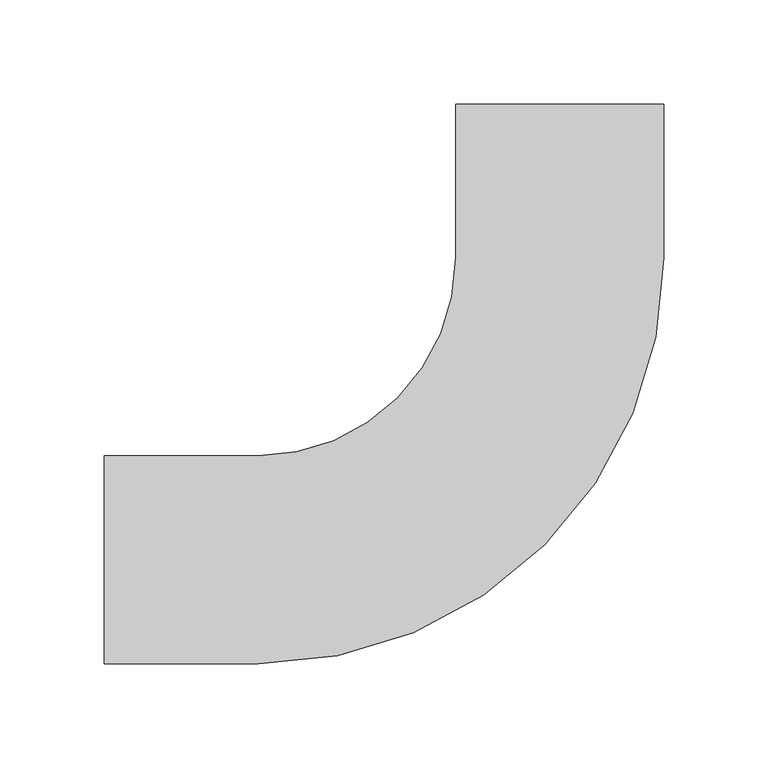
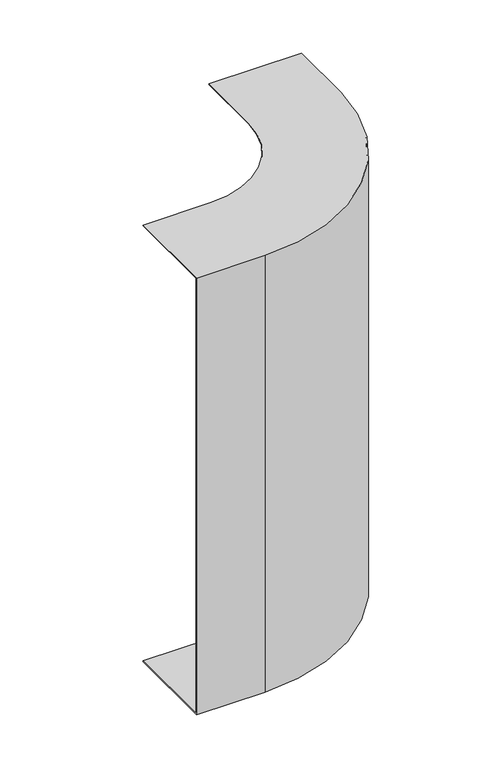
"""IFC4 building model written with IfcOpenShell, lengths in millimetres: cable carrier fitting geometry, BAKS_KK_Vertical bend EXTERNAL_LU : LUNJ_H100."""

from ifc_helpers import new_model, si_unit, frame, origin, place, context, project, spatial, polyline, circle_curve, source, transform, mapped, element, save
from ifc_brep_helpers import plane_surface, cylinder_surface, revolved_surface, advanced_brep


def cable_carrier_fitting_2a96a9fd(model_context):
    return source(origin(), model_context, "Body", "AdvancedBrep", [
        advanced_brep(
        [(-219.0, 50.0, 250.0), (-219.0, 50.0, 249.0), (-219.0, -49.0, 249.0), (-219.0, -49.0, -249.0), (-219.0, 50.0, -249.0), (-219.0, 50.0, -250.0), (-219.0, -50.0, -250.0), (-219.0, -50.0, 250.0), (-50.0, 219.0, 250.0), (50.0, 219.0, 250.0), (50.0, 219.0, -250.0), (-50.0, 219.0, -250.0), (-50.0, 219.0, -249.0), (49.0, 219.0, -249.0), (49.0, 219.0, 249.0), (-50.0, 219.0, 249.0), (-145.0, -50.0, 250.0), (50.0, 145.0, 250.0), (-50.0, 145.0, 250.0), (-145.0, 50.0, 250.0), (-145.0, -50.0, -250.0), (-145.0, 50.0, -250.0), (-50.0, 145.0, -250.0), (50.0, 145.0, -250.0), (-145.0, 50.0, -249.0), (-145.0, -49.0, -249.0), (49.0, 145.0, -249.0), (-50.0, 145.0, -249.0), (-145.0, -49.0, 249.0), (-145.0, 50.0, 249.0), (-50.0, 145.0, 249.0), (49.0, 145.0, 249.0)],
        [
            (0, 1),
            (1, 2),
            (2, 3),
            (3, 4),
            (4, 5),
            (5, 6),
            (6, 7),
            (7, 0),
            (8, 9),
            (9, 10),
            (10, 11),
            (11, 12),
            (12, 13),
            (13, 14),
            (14, 15),
            (15, 8),
            (7, 16),
            (16, 17, circle_curve(frame((-145.0, 145.0, 250.0), z_axis=(0.0, 0.0, 1.0), x_axis=(0.0, -1.0, 0.0)), 195.0)),
            (17, 9),
            (8, 18),
            (18, 19, circle_curve(frame((-145.0, 145.0, 250.0), z_axis=(0.0, 0.0, -1.0), x_axis=(0.0, -1.0, 0.0)), 95.0)),
            (19, 0),
            (6, 20),
            (20, 16),
            (5, 21),
            (21, 22, circle_curve(frame((-145.0, 145.0, -250.0), z_axis=(0.0, 0.0, 1.0), x_axis=(0.0, -1.0, 0.0)), 95.0)),
            (22, 11),
            (10, 23),
            (23, 20, circle_curve(frame((-145.0, 145.0, -250.0), z_axis=(0.0, 0.0, -1.0), x_axis=(0.0, -1.0, 0.0)), 195.0)),
            (4, 24),
            (24, 21),
            (3, 25),
            (25, 26, circle_curve(frame((-145.0, 145.0, -249.0), z_axis=(0.0, 0.0, 1.0), x_axis=(0.0, -1.0, 0.0)), 194.0)),
            (26, 13),
            (12, 27),
            (27, 24, circle_curve(frame((-145.0, 145.0, -249.0), z_axis=(0.0, 0.0, -1.0), x_axis=(0.0, -1.0, 0.0)), 95.0)),
            (2, 28),
            (28, 25),
            (1, 29),
            (29, 30, circle_curve(frame((-145.0, 145.0, 249.0), z_axis=(0.0, 0.0, 1.0), x_axis=(0.0, -1.0, 0.0)), 95.0)),
            (30, 15),
            (14, 31),
            (31, 28, circle_curve(frame((-145.0, 145.0, 249.0), z_axis=(0.0, 0.0, -1.0), x_axis=(0.0, -1.0, 0.0)), 194.0)),
            (19, 29),
            (23, 17),
            (27, 22),
            (31, 26),
            (18, 30),
        ],
        [
            plane_surface(frame((-219.0, 0.0, 0.0), z_axis=(-1.0, 0.0, 0.0), x_axis=(0.0, 0.0, 1.0))),
            plane_surface(frame((0.0, 219.0, 0.0), z_axis=(0.0, 1.0, 0.0), x_axis=(0.0, 0.0, 1.0))),
            plane_surface(frame((-219.0, -50.0, 250.0), z_axis=(0.0, 0.0, 1.0), x_axis=(1.0, 0.0, 0.0))),
            plane_surface(frame((-219.0, -50.0, -250.0), z_axis=(0.0, -1.0, 0.0), x_axis=(1.0, 0.0, 0.0))),
            plane_surface(frame((-219.0, 50.0, -250.0), z_axis=(0.0, 0.0, -1.0), x_axis=(1.0, 0.0, 0.0))),
            plane_surface(frame((-219.0, 50.0, -249.0), z_axis=(0.0, 1.0, 0.0), x_axis=(1.0, 0.0, 0.0))),
            plane_surface(frame((-219.0, -49.0, -249.0), z_axis=(0.0, 0.0, 1.0), x_axis=(1.0, 0.0, 0.0))),
            plane_surface(frame((-219.0, -49.0, 249.0), z_axis=(0.0, 1.0, 0.0), x_axis=(1.0, 0.0, 0.0))),
            plane_surface(frame((-219.0, 50.0, 249.0), z_axis=(0.0, 0.0, -1.0), x_axis=(1.0, 0.0, 0.0))),
            plane_surface(frame((-219.0, 50.0, 250.0), z_axis=(0.0, 1.0, 0.0), x_axis=(1.0, 0.0, 0.0))),
            cylinder_surface(frame((-145.0, 145.0, 0.0), z_axis=(0.0, 0.0, 1.0), x_axis=(0.0, -1.0, 0.0)), 195.0),
            revolved_surface(polyline([(-145.0, 50.0, -249.0), (-145.0, 50.0, -250.0)]), (-145.0, 145.0, 0.0), (0.0, 0.0, 1.0)),
            revolved_surface(polyline([(-145.0, -49.0, 249.0), (-145.0, -49.0, -249.0)]), (-145.0, 145.0, 0.0), (0.0, 0.0, 1.0)),
            revolved_surface(polyline([(-145.0, 50.0, 250.0), (-145.0, 50.0, 249.0)]), (-145.0, 145.0, 0.0), (0.0, 0.0, 1.0)),
            plane_surface(frame((50.0, 145.0, -250.0), z_axis=(1.0, 0.0, 0.0), x_axis=(0.0, 1.0, 0.0))),
            plane_surface(frame((-50.0, 145.0, -249.0), z_axis=(-1.0, 0.0, 0.0), x_axis=(0.0, 1.0, 0.0))),
            plane_surface(frame((49.0, 145.0, 249.0), z_axis=(-1.0, 0.0, 0.0), x_axis=(0.0, 1.0, 0.0))),
            plane_surface(frame((-50.0, 145.0, 250.0), z_axis=(-1.0, 0.0, 0.0), x_axis=(0.0, 1.0, 0.0))),
        ],
        [
            (0, [[1, 2, 3, 4, 5, 6, 7, 8]]),
            (1, [[9, 10, 11, 12, 13, 14, 15, 16]]),
            (2, [[-8, 17, 18, 19, -9, 20, 21, 22]]),
            (3, [[-7, 23, 24, -17]]),
            (4, [[-6, 25, 26, 27, -11, 28, 29, -23]]),
            (5, [[-5, 30, 31, -25]]),
            (6, [[-4, 32, 33, 34, -13, 35, 36, -30]]),
            (7, [[-3, 37, 38, -32]]),
            (8, [[-2, 39, 40, 41, -15, 42, 43, -37]]),
            (9, [[-1, -22, 44, -39]]),
            (10, [[-18, -24, -29, 45]]),
            (11, [[-26, -31, -36, 46]]),
            (12, [[-33, -38, -43, 47]]),
            (13, [[-40, -44, -21, 48]]),
            (14, [[-45, -28, -10, -19]]),
            (15, [[-46, -35, -12, -27]]),
            (16, [[-47, -42, -14, -34]]),
            (17, [[-48, -20, -16, -41]]),
        ],
    ),
    ])


if __name__ == "__main__":
    model = new_model("IFC4")
    model_context = context("Model", 3, world=origin())
    ifc_project = project(units=[si_unit("LENGTHUNIT", "METRE", prefix="MILLI")], contexts=[model_context])
    site = spatial("IfcSite", under=ifc_project)
    building = spatial("IfcBuilding", under=site)
    placement = place(None, origin())
    cable_carrier_fitting_shape = cable_carrier_fitting_2a96a9fd(model_context)
    element("IfcCableCarrierFitting", 1, ObjectType="BAKS_KK_Vertical bend EXTERNAL_LU : LUNJ_H100", at=placement, inside=building, context=model_context, shape_type="MappedRepresentation", body=[
        mapped(cable_carrier_fitting_shape, transform((0.0, 0.0, 0.0), x_axis=(1.0, 0.0, 0.0), y_axis=(0.0, 1.0, 0.0), z_axis=(0.0, 0.0, 1.0))),
    ])
    save(model, "model.ifc")
